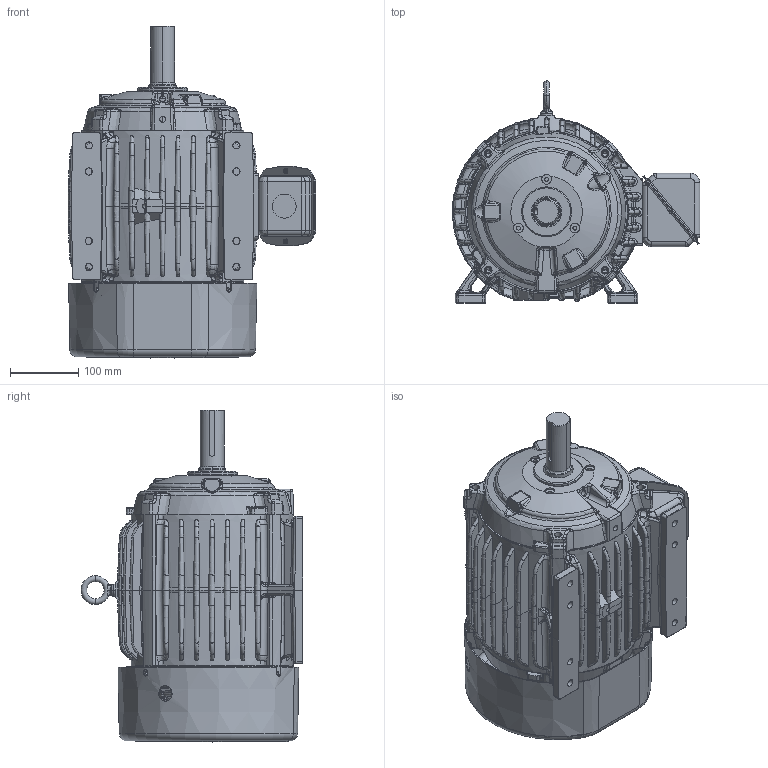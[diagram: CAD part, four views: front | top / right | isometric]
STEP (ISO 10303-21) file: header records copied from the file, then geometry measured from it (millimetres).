
FILE_DESCRIPTION((''),'2;1');
FILE_NAME('GP_ASSY_ASM','2014-06-25T',('NMC779F'),('Nidec Motor Corporation'),'PRO/ENGINEER BY PARAMETRIC TECHNOLOGY CORPORATION, 2013150','PRO/ENGINEER BY PARAMETRIC TECHNOLOGY CORPORATION, 2013150','');
FILE_SCHEMA(('CONFIG_CONTROL_DESIGN'));
Products named in the file (11): 0955700; 0987078; 0647319-003; 0345787; 0644279; 0133167; 0377667; 0377668; 0950262; 250_INPRO; GP_ASSY_ASM
Assembly tree (10 placements, depth 2):
  GP_ASSY_ASM
    0955700
    0987078
    0647319-003
    0345787
    0644279
    0133167
    0377667
    0377668
    0950262
    250_INPRO
Bounding box: 362.29 x 324.54 x 485.37 mm (x, y, z)
Volume: 4897967 mm3; surface area: 1357672.4 mm2
Topology: 12 solids, 12 shells, 3244 faces, 7782 edges, 4546 vertices
Faces by surface type: bspline 1371, cylinder 665, plane 537, torus 264, sphere 252, cone 155
Entity records: 147241 total; most frequent: CARTESIAN_POINT 81898, ORIENTED_EDGE 15476, DIRECTION 11147, EDGE_CURVE 7738, AXIS2_PLACEMENT_3D 4807, VERTEX_POINT 4546, EDGE_LOOP 3462, B_SPLINE_CURVE_WITH_KNOTS 3292
